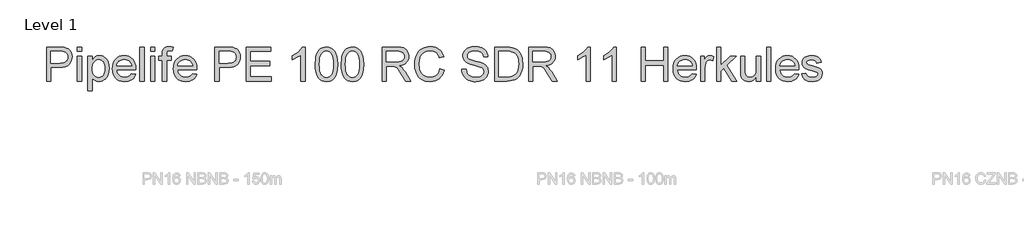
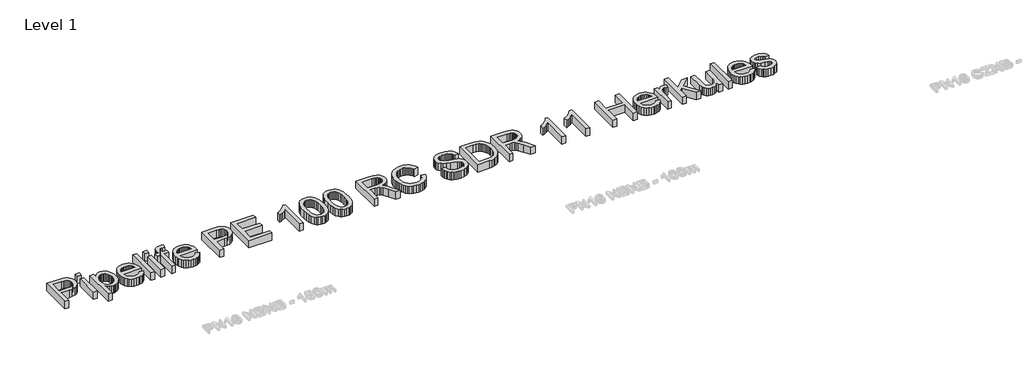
# One storey, part 15 of 17: 1 proxy.
"""IFC4 building model written with IfcOpenShell, lengths in millimetres."""

from ifc_helpers import new_model, si_unit, origin, origin_with_axes, place, context, project, spatial, polyline, outline, extrude, element, save

model = new_model("IFC4")

# Units and contexts
model_context = context("Model", 3, world=origin())
ifc_project = project(units=[si_unit("LENGTHUNIT", "METRE", prefix="MILLI")], contexts=[model_context])

# Site, building, storey
site = spatial("IfcSite", under=ifc_project)
building = spatial("IfcBuilding", under=site)
storey = spatial("IfcBuildingStorey", under=building, Name="Level 1", Elevation=0.0)

# Proxy
placement = place(None, origin())
element("IfcBuildingElementProxy", 1, Name="600mm Arial", ObjectType="600mm Arial", at=placement, inside=storey, context=model_context, shape_type="SweptSolid", body=[
    extrude(outline(polyline([(-16966.7426717, 3990.4626098), (-16966.7426717, 4593.2004707), (-16743.3647242, 4593.2004707), (-16691.3462101, 4591.7657309), (-16653.3072118, 4587.4615116), (-16613.152892, 4576.7377514), (-16580.0986947, 4559.2817508), (-16553.4824324, 4534.3025633), (-16532.6419174, 4501.0092427), (-16519.1774363, 4461.7378398), (-16514.689276, 4418.824405), (-16517.7197039, 4381.8246734), (-16526.8109877, 4347.7863917), (-16541.9631274, 4316.7095602), (-16563.176123, 4288.5941787), (-16592.2985814, 4265.2888543), (-16631.1791098, 4248.642194), (-16679.8177081, 4238.6541979), (-16738.2143763, 4235.3248658), (-16891.4004391, 4235.3248658), (-16891.4004391, 3990.4626098), (-16966.7426717, 3990.4626098)]), holes=[polyline([(-16891.4004391, 4310.6670984), (-16733.7997923, 4310.6670984), (-16697.5634158, 4312.3961438), (-16666.992422, 4317.5832799), (-16642.0868109, 4326.2285068), (-16622.8465826, 4338.3318245), (-16608.4899877, 4353.5713361), (-16598.2352771, 4371.625145), (-16592.0824507, 4392.4932512), (-16590.0315086, 4416.1756547), (-16594.8691569, 4450.0207982), (-16609.3821016, 4478.568441), (-16631.767721, 4500.0527496), (-16660.2233933, 4512.7078902), (-16689.2860709, 4516.5706511), (-16735.5656259, 4517.8582381), (-16891.4004391, 4517.8582381), (-16891.4004391, 4310.6670984)])]), origin_with_axes(), (0.0, 0.0, 1.0), 150.0),
    extrude(outline(polyline([(-16420.5114852, 3990.4626098), (-16420.5114852, 4433.0982264), (-16345.1692526, 4433.0982264), (-16345.1692526, 3990.4626098), (-16420.5114852, 3990.4626098)])), origin_with_axes(), (0.0, 0.0, 1.0), 150.0),
    extrude(outline(polyline([(-16420.5114852, 4517.8582381), (-16420.5114852, 4593.2004707), (-16345.1692526, 4593.2004707), (-16345.1692526, 4517.8582381), (-16420.5114852, 4517.8582381)])), origin_with_axes(), (0.0, 0.0, 1.0), 150.0),
    extrude(outline(polyline([(-16232.1559037, 3820.9425865), (-16232.1559037, 4433.0982264), (-16156.8136711, 4433.0982264), (-16156.8136711, 4359.2275218), (-16132.2391538, 4395.6662334), (-16104.7215806, 4421.6938846), (-16072.6422706, 4437.3104753), (-16034.3825431, 4442.5160055), (-16008.1065716, 4440.6949896), (-15983.4308868, 4435.231942), (-15960.3554886, 4426.1268626), (-15938.8803772, 4413.3797515), (-15919.4746019, 4397.3217024), (-15902.6072124, 4378.2838091), (-15888.2782087, 4356.2660717), (-15876.4875908, 4331.2684902), (-15860.7054532, 4275.7550971), (-15855.4447407, 4215.1649325), (-15861.3860349, 4150.730401), (-15868.8126526, 4121.0653166), (-15879.2099175, 4093.1016865), (-15892.4352753, 4067.570676), (-15908.3461716, 4045.2034507), (-15926.9426064, 4026.0000106), (-15948.2245798, 4009.9603556), (-15971.1482267, 3997.3098135), (-15994.6696817, 3988.273712), (-16018.788945, 3982.8520511), (-16043.5060166, 3981.0448308), (-16078.1421064, 3985.882479), (-16109.0625881, 4000.3954237), (-16135.5316977, 4022.3027965), (-16156.8136711, 4049.3237291), (-16156.8136711, 3820.9425865), (-16232.1559037, 3820.9425865)]), holes=[polyline([(-16156.8136711, 4208.248751), (-16154.7765246, 4171.9387981), (-16148.6650849, 4140.7056167), (-16138.4793522, 4114.5492068), (-16124.2193263, 4093.4695685), (-16107.0530327, 4077.2459725), (-16088.1484967, 4065.6576896), (-16067.5057182, 4058.7047199), (-16045.1246974, 4056.3870634), (-16022.4217797, 4058.7874934), (-16001.4019222, 4065.9887834), (-15982.0651249, 4077.9909335), (-15964.4113876, 4094.7939437), (-15949.7007063, 4116.6369371), (-15939.1930769, 4143.7590372), (-15932.8884992, 4176.1602439), (-15930.7869733, 4213.8405573), (-15932.8379154, 4249.8378105), (-15938.9907418, 4281.0158096), (-15949.2454524, 4307.3745546), (-15963.6020472, 4328.9140454), (-15980.8097276, 4345.6526762), (-15999.6176946, 4357.608841), (-16020.0259482, 4364.7825399), (-16042.0344886, 4367.1737729), (-16063.9740511, 4364.6307886), (-16084.6168295, 4357.0018357), (-16103.962824, 4344.2869143), (-16122.0120344, 4326.4860242), (-16137.2377504, 4303.8382889), (-16148.1132619, 4276.5828316), (-16154.6385688, 4244.7196523), (-16156.8136711, 4208.248751)])]), origin_with_axes(), (0.0, 0.0, 1.0), 150.0),
    extrude(outline(polyline([(-15460.7809362, 4122.3115169), (-15386.9102316, 4112.8937378), (-15398.2363985, 4083.3068284), (-15413.5264939, 4057.233192), (-15432.7805179, 4034.6728286), (-15455.9984703, 4015.6257383), (-15482.9412279, 4000.4965913), (-15513.3696674, 3989.6900576), (-15547.2837889, 3983.2061375), (-15584.6835922, 3981.0448308), (-15631.4321967, 3984.7742345), (-15673.0856356, 3995.9624457), (-15709.6439089, 4014.6094643), (-15741.1070165, 4040.7152904), (-15766.4081008, 4073.553357), (-15784.4803038, 4112.3970971), (-15795.3236256, 4157.2465109), (-15798.9380662, 4208.1015982), (-15795.2868374, 4260.6811323), (-15784.333151, 4307.0250667), (-15766.077007, 4347.1334012), (-15740.5184054, 4381.0061359), (-15709.1380712, 4407.9167039), (-15673.4167294, 4427.1385381), (-15633.3543802, 4438.6716387), (-15588.9510233, 4442.5160055), (-15545.9778078, 4438.6808357), (-15507.1156735, 4427.1753263), (-15472.3646205, 4407.9994773), (-15441.7246489, 4381.1532887), (-15416.7132717, 4347.3541304), (-15398.8480023, 4307.3193723), (-15388.1288407, 4261.0490143), (-15384.5557868, 4208.5430566), (-15384.9972452, 4188.2359704), (-15723.5958336, 4188.2359704), (-15719.2318334, 4158.1708144), (-15710.5544168, 4131.8396606), (-15697.5635839, 4109.242509), (-15680.2593345, 4090.3793597), (-15659.598162, 4075.5077301), (-15636.5365594, 4064.8851375), (-15611.0745268, 4058.5115819), (-15583.2120642, 4056.3870634), (-15543.1129267, 4060.3234007), (-15509.3413596, 4072.1324128), (-15481.8973627, 4092.5498635), (-15460.7809362, 4122.3115169)]), holes=[polyline([(-15723.5958336, 4263.5782031), (-15459.8980194, 4263.5782031), (-15470.0883507, 4303.3830349), (-15478.8531392, 4319.0364138), (-15490.064343, 4331.8571014), (-15510.6105525, 4347.3081452), (-15533.9894533, 4358.344605), (-15560.2010454, 4364.9664809), (-15589.2453289, 4367.1737729), (-15615.7374311, 4365.4125378), (-15640.0314384, 4360.1288327), (-15662.1273507, 4351.3226574), (-15682.0251681, 4338.9940121), (-15698.7224122, 4323.7131137), (-15711.2166044, 4306.0501794), (-15719.5077449, 4286.0052092), (-15723.5958336, 4263.5782031)])]), origin_with_axes(), (0.0, 0.0, 1.0), 150.0),
    extrude(outline(polyline([(-15309.2135542, 3990.4626098), (-15309.2135542, 4593.2004707), (-15233.8713216, 4593.2004707), (-15233.8713216, 3990.4626098), (-15309.2135542, 3990.4626098)])), origin_with_axes(), (0.0, 0.0, 1.0), 150.0),
    extrude(outline(polyline([(-15120.8579727, 4517.8582381), (-15120.8579727, 4593.2004707), (-15045.5157401, 4593.2004707), (-15045.5157401, 4517.8582381), (-15120.8579727, 4517.8582381)])), origin_with_axes(), (0.0, 0.0, 1.0), 150.0),
    extrude(outline(polyline([(-15120.8579727, 3990.4626098), (-15120.8579727, 4433.0982264), (-15045.5157401, 4433.0982264), (-15045.5157401, 3990.4626098), (-15120.8579727, 3990.4626098)])), origin_with_axes(), (0.0, 0.0, 1.0), 150.0),
    extrude(outline(polyline([(-14913.666833, 3990.4626098), (-14913.666833, 4357.7559938), (-14979.5912865, 4357.7559938), (-14979.5912865, 4433.0982264), (-14913.666833, 4433.0982264), (-14913.666833, 4477.6855242), (-14911.6802702, 4514.5840884), (-14905.7205819, 4540.519769), (-14890.5638437, 4565.5725329), (-14867.1665488, 4585.4013724), (-14834.4250512, 4598.3140305), (-14791.235705, 4602.6182498), (-14758.5309956, 4600.5581106), (-14722.5153483, 4594.3776931), (-14733.5518082, 4523.74435), (-14776.9618836, 4527.2760172), (-14805.6014969, 4524.1490202), (-14824.418661, 4514.7680294), (-14834.8481155, 4496.8521762), (-14838.3246004, 4468.1205924), (-14838.3246004, 4433.0982264), (-14753.5645887, 4433.0982264), (-14753.5645887, 4357.7559938), (-14838.3246004, 4357.7559938), (-14838.3246004, 3990.4626098), (-14913.666833, 3990.4626098)])), origin_with_axes(), (0.0, 0.0, 1.0), 150.0),
    extrude(outline(polyline([(-14377.7363424, 4122.3115169), (-14303.8656378, 4112.8937378), (-14315.1918047, 4083.3068284), (-14330.4819001, 4057.233192), (-14349.7359241, 4034.6728286), (-14372.9538765, 4015.6257383), (-14399.8966341, 4000.4965913), (-14430.3250736, 3989.6900576), (-14464.2391951, 3983.2061375), (-14501.6389984, 3981.0448308), (-14548.3876029, 3984.7742345), (-14590.0410418, 3995.9624457), (-14626.5993151, 4014.6094643), (-14658.0624227, 4040.7152904), (-14683.363507, 4073.553357), (-14701.43571, 4112.3970971), (-14712.2790318, 4157.2465109), (-14715.8934724, 4208.1015982), (-14712.2422436, 4260.6811323), (-14701.2885572, 4307.0250667), (-14683.0324132, 4347.1334012), (-14657.4738116, 4381.0061359), (-14626.0934774, 4407.9167039), (-14590.3721356, 4427.1385381), (-14550.3097864, 4438.6716387), (-14505.9064295, 4442.5160055), (-14462.933214, 4438.6808357), (-14424.0710797, 4427.1753263), (-14389.3200267, 4407.9994773), (-14358.6800551, 4381.1532887), (-14333.6686779, 4347.3541304), (-14315.8034085, 4307.3193723), (-14305.0842469, 4261.0490143), (-14301.511193, 4208.5430566), (-14301.9526514, 4188.2359704), (-14640.5512398, 4188.2359704), (-14636.1872396, 4158.1708144), (-14627.509823, 4131.8396606), (-14614.5189901, 4109.242509), (-14597.2147407, 4090.3793597), (-14576.5535682, 4075.5077301), (-14553.4919656, 4064.8851375), (-14528.029933, 4058.5115819), (-14500.1674704, 4056.3870634), (-14460.0683329, 4060.3234007), (-14426.2967658, 4072.1324128), (-14398.8527689, 4092.5498635), (-14377.7363424, 4122.3115169)]), holes=[polyline([(-14640.5512398, 4263.5782031), (-14376.8534256, 4263.5782031), (-14387.0437569, 4303.3830349), (-14395.8085454, 4319.0364138), (-14407.0197492, 4331.8571014), (-14427.5659587, 4347.3081452), (-14450.9448595, 4358.344605), (-14477.1564516, 4364.9664809), (-14506.2007351, 4367.1737729), (-14532.6928373, 4365.4125378), (-14556.9868446, 4360.1288327), (-14579.0827569, 4351.3226574), (-14598.9805743, 4338.9940121), (-14615.6778184, 4323.7131137), (-14628.1720106, 4306.0501794), (-14636.4631511, 4286.0052092), (-14640.5512398, 4263.5782031)])]), origin_with_axes(), (0.0, 0.0, 1.0), 150.0),
    extrude(outline(polyline([(-13981.3067044, 3990.4626098), (-13981.3067044, 4593.2004707), (-13757.928757, 4593.2004707), (-13705.9102428, 4591.7657309), (-13667.8712445, 4587.4615116), (-13627.7169248, 4576.7377514), (-13594.6627275, 4559.2817508), (-13568.0464651, 4534.3025633), (-13547.2059501, 4501.0092427), (-13533.7414691, 4461.7378398), (-13529.2533087, 4418.824405), (-13532.2837367, 4381.8246734), (-13541.3750205, 4347.7863917), (-13556.5271602, 4316.7095602), (-13577.7401557, 4288.5941787), (-13606.8626142, 4265.2888543), (-13645.7431425, 4248.642194), (-13694.3817408, 4238.6541979), (-13752.778409, 4235.3248658), (-13905.9644718, 4235.3248658), (-13905.9644718, 3990.4626098), (-13981.3067044, 3990.4626098)]), holes=[polyline([(-13905.9644718, 4310.6670984), (-13748.3638251, 4310.6670984), (-13712.1274486, 4312.3961438), (-13681.5564548, 4317.5832799), (-13656.6508437, 4326.2285068), (-13637.4106153, 4338.3318245), (-13623.0540205, 4353.5713361), (-13612.7993099, 4371.625145), (-13606.6464835, 4392.4932512), (-13604.5955414, 4416.1756547), (-13609.4331896, 4450.0207982), (-13623.9461343, 4478.568441), (-13646.3317537, 4500.0527496), (-13674.787426, 4512.7078902), (-13703.8501037, 4516.5706511), (-13750.1296587, 4517.8582381), (-13905.9644718, 4517.8582381), (-13905.9644718, 4310.6670984)])]), origin_with_axes(), (0.0, 0.0, 1.0), 150.0),
    extrude(outline(polyline([(-13425.6577389, 3990.4626098), (-13425.6577389, 4593.2004707), (-12992.4399014, 4593.2004707), (-12992.4399014, 4517.8582381), (-13350.3155063, 4517.8582381), (-13350.3155063, 4338.9204357), (-13011.2754595, 4338.9204357), (-13011.2754595, 4263.5782031), (-13350.3155063, 4263.5782031), (-13350.3155063, 4065.8048424), (-12983.0221223, 4065.8048424), (-12983.0221223, 3990.4626098), (-13425.6577389, 3990.4626098)])), origin_with_axes(), (0.0, 0.0, 1.0), 150.0),
    extrude(outline(polyline([(-12380.2842614, 3990.4626098), (-12455.626494, 3990.4626098), (-12455.626494, 4460.1743413), (-12487.0804046, 4434.7353013), (-12526.9956011, 4409.3330495), (-12568.8973603, 4387.1313711), (-12606.3109592, 4371.2940512), (-12606.3109592, 4442.5160055), (-12547.1371403, 4474.7056801), (-12495.8727843, 4513.0021958), (-12455.4609471, 4553.7267326), (-12428.8446848, 4593.2004707), (-12380.2842614, 4593.2004707), (-12380.2842614, 3990.4626098)])), origin_with_axes(), (0.0, 0.0, 1.0), 150.0),
    extrude(outline(polyline([(-12201.346459, 4286.9754979), (-12195.8098349, 4383.4525512), (-12188.8890549, 4424.3656276), (-12179.1999628, 4460.3950705), (-12166.7839455, 4491.8351855), (-12151.6823896, 4518.9802782), (-12133.8952951, 4541.8303486), (-12113.4226621, 4560.3853968), (-12090.1955126, 4574.7419916), (-12064.1448689, 4584.9967022), (-12035.2707308, 4591.1495286), (-12003.5730984, 4593.2004707), (-11957.1463906, 4588.3444284), (-11915.5757251, 4573.7763014), (-11880.8108766, 4550.0663068), (-11854.8016195, 4517.7846617), (-11835.156721, 4477.2072777), (-11819.484948, 4428.6100661), (-11809.2210403, 4366.8978614), (-11805.7997377, 4286.9754979), (-11811.2811795, 4191.0502677), (-11818.1329816, 4150.2751471), (-11827.7255047, 4114.2916894), (-11840.044953, 4082.8377788), (-11855.077531, 4055.6512994), (-11872.8232387, 4032.7322511), (-11893.2820762, 4014.0806339), (-11916.5368168, 3999.62747), (-11942.670234, 3989.3037815), (-11971.6823279, 3983.1095685), (-12003.5730984, 3981.0448308), (-12045.0701874, 3984.6316802), (-12081.8583869, 3995.3922286), (-12113.9376969, 4013.3264758), (-12141.3081173, 4038.434422), (-12167.5748918, 4083.8218632), (-12186.3368736, 4140.3745229), (-12197.5940626, 4208.0924011), (-12201.346459, 4286.9754979)]), holes=[polyline([(-12126.0042263, 4287.1226507), (-12123.7969344, 4221.62586), (-12117.1750585, 4168.609466), (-12106.1385986, 4128.0734687), (-12090.6875548, 4100.017868), (-12071.9991495, 4080.929391), (-12051.2506049, 4067.2947645), (-12028.4419212, 4059.1139887), (-12003.5730984, 4056.3870634), (-11978.7042755, 4059.1231857), (-11955.8955918, 4067.3315527), (-11935.1470472, 4081.0121644), (-11916.4586419, 4100.1650208), (-11901.0075981, 4128.2666067), (-11889.9711382, 4168.793407), (-11883.3492623, 4221.7454217), (-11881.1419704, 4287.1226507), (-11883.2756859, 4350.8857976), (-11889.6768326, 4402.968691), (-11900.3454105, 4443.3713311), (-11915.2814195, 4472.0937179), (-11933.6571252, 4492.1156955), (-11954.644793, 4506.4171081), (-11978.244423, 4514.9979556), (-12004.4560151, 4517.8582381), (-12029.1960793, 4515.3382465), (-12051.6184869, 4507.7782714), (-12071.723238, 4495.1783131), (-12089.5103324, 4477.5383714), (-12105.476411, 4446.2684019), (-12116.8807529, 4404.1091252), (-12123.723358, 4351.0605415), (-12126.0042263, 4287.1226507)])]), origin_with_axes(), (0.0, 0.0, 1.0), 150.0),
    extrude(outline(polyline([(-11739.8752842, 4286.9754979), (-11734.3386602, 4383.4525512), (-11727.4178801, 4424.3656276), (-11717.7287881, 4460.3950705), (-11705.3127708, 4491.8351855), (-11690.2112149, 4518.9802782), (-11672.4241204, 4541.8303486), (-11651.9514874, 4560.3853968), (-11628.7243379, 4574.7419916), (-11602.6736941, 4584.9967022), (-11573.799556, 4591.1495286), (-11542.1019236, 4593.2004707), (-11495.6752158, 4588.3444284), (-11454.1045504, 4573.7763014), (-11419.3397018, 4550.0663068), (-11393.3304448, 4517.7846617), (-11373.6855462, 4477.2072777), (-11358.0137732, 4428.6100661), (-11347.7498655, 4366.8978614), (-11344.328563, 4286.9754979), (-11349.8100047, 4191.0502677), (-11356.6618069, 4150.2751471), (-11366.2543299, 4114.2916894), (-11378.5737782, 4082.8377788), (-11393.6063562, 4055.6512994), (-11411.352064, 4032.7322511), (-11431.8109014, 4014.0806339), (-11455.0656421, 3999.62747), (-11481.1990593, 3989.3037815), (-11510.2111531, 3983.1095685), (-11542.1019236, 3981.0448308), (-11583.5990127, 3984.6316802), (-11620.3872122, 3995.3922286), (-11652.4665222, 4013.3264758), (-11679.8369426, 4038.434422), (-11706.1037171, 4083.8218632), (-11724.8656988, 4140.3745229), (-11736.1228879, 4208.0924011), (-11739.8752842, 4286.9754979)]), holes=[polyline([(-11664.5330516, 4287.1226507), (-11662.3257596, 4221.62586), (-11655.7038837, 4168.609466), (-11644.6674239, 4128.0734687), (-11629.2163801, 4100.017868), (-11610.5279747, 4080.929391), (-11589.7794302, 4067.2947645), (-11566.9707465, 4059.1139887), (-11542.1019236, 4056.3870634), (-11517.2331007, 4059.1231857), (-11494.424417, 4067.3315527), (-11473.6758725, 4081.0121644), (-11454.9874671, 4100.1650208), (-11439.5364233, 4128.2666067), (-11428.4999635, 4168.793407), (-11421.8780876, 4221.7454217), (-11419.6707956, 4287.1226507), (-11421.8045112, 4350.8857976), (-11428.2056579, 4402.968691), (-11438.8742358, 4443.3713311), (-11453.8102448, 4472.0937179), (-11472.1859504, 4492.1156955), (-11493.1736182, 4506.4171081), (-11516.7732482, 4514.9979556), (-11542.9848404, 4517.8582381), (-11567.7249046, 4515.3382465), (-11590.1473122, 4507.7782714), (-11610.2520632, 4495.1783131), (-11628.0391577, 4477.5383714), (-11644.0052363, 4446.2684019), (-11655.4095781, 4404.1091252), (-11662.2521832, 4351.0605415), (-11664.5330516, 4287.1226507)])]), origin_with_axes(), (0.0, 0.0, 1.0), 150.0),
    extrude(outline(polyline([(-11014.7062953, 3990.4626098), (-11014.7062953, 4593.2004707), (-10754.9816067, 4593.2004707), (-10685.1759981, 4589.1353747), (-10634.3898887, 4576.9400865), (-10614.7909754, 4567.246396), (-10597.2705954, 4554.4257084), (-10581.8287486, 4538.4780239), (-10568.4654352, 4519.4033425), (-10557.6818942, 4498.2271351), (-10549.9793649, 4475.974873), (-10545.3578473, 4452.6465559), (-10543.8173415, 4428.2421841), (-10546.3695228, 4397.2849142), (-10554.0260669, 4368.8660301), (-10566.7869736, 4342.9855317), (-10584.652243, 4319.6434191), (-10607.8518013, 4299.5846533), (-10636.6155748, 4283.5541954), (-10670.9435634, 4271.5520453), (-10710.8357673, 4263.5782031), (-10686.0037326, 4247.3546071), (-10668.0143031, 4231.3517403), (-10637.1490037, 4194.7474818), (-10606.9458919, 4153.8022157), (-10506.4405308, 3990.4626098), (-10593.9964456, 3990.4626098), (-10672.428887, 4115.3953354), (-10729.0827143, 4198.0952079), (-10750.1439585, 4222.2098727), (-10768.8875461, 4237.1642758), (-10804.7192525, 4251.5116736), (-10848.4236335, 4254.160424), (-10939.3640627, 4254.160424), (-10939.3640627, 3990.4626098), (-11014.7062953, 3990.4626098)]), holes=[polyline([(-10939.3640627, 4329.5026566), (-10770.7269561, 4329.5026566), (-10722.2952914, 4332.1698011), (-10684.7161456, 4340.1712344), (-10656.4260202, 4354.0403857), (-10635.8614167, 4374.3106836), (-10623.3350347, 4398.8300186), (-10619.1595741, 4425.4462809), (-10621.1507354, 4444.7141004), (-10627.1242193, 4462.1976922), (-10637.0800258, 4477.8970564), (-10651.0181549, 4491.8121929), (-10669.2605033, 4503.2073377), (-10692.1289678, 4511.3467268), (-10719.6235485, 4516.2303603), (-10751.7442452, 4517.8582381), (-10939.3640627, 4517.8582381), (-10939.3640627, 4329.5026566)])]), origin_with_axes(), (0.0, 0.0, 1.0), 150.0),
    extrude(outline(polyline([(-9988.168376, 4204.7170838), (-9912.8261434, 4185.2929145), (-9927.7345612, 4138.4385439), (-9947.5909919, 4097.4978763), (-9972.3954354, 4062.4709119), (-10002.1478918, 4033.3576505), (-10036.1769763, 4010.4707918), (-10073.8113045, 3994.1230357), (-10115.0508761, 3984.314382), (-10159.8956913, 3981.0448308), (-10205.839554, 3983.5188372), (-10247.2860593, 3990.9408564), (-10284.2352072, 4003.3108885), (-10316.6869977, 4020.6289334), (-10345.0874877, 4042.6374738), (-10369.8827342, 4069.0789922), (-10391.0727371, 4099.9534886), (-10408.6574965, 4135.2609631), (-10422.4668669, 4173.4747054), (-10432.3307029, 4213.0680051), (-10438.2490044, 4254.0408623), (-10440.2217716, 4296.393277), (-10437.9914871, 4341.8359005), (-10431.3006333, 4384.2802857), (-10420.1492103, 4423.7264326), (-10404.5372181, 4460.1743413), (-10384.8141446, 4493.0216049), (-10361.3294778, 4521.6658168), (-10334.0832175, 4546.1069768), (-10303.0753638, 4566.3450851), (-10269.358979, 4582.2145946), (-10233.9871252, 4593.5499586), (-10196.9598023, 4600.351177), (-10158.2770105, 4602.6182498), (-10115.1842333, 4599.6843909), (-10075.6691085, 4590.8828142), (-10039.7316361, 4576.2135196), (-10007.3718161, 4555.6765072), (-9979.1230774, 4529.814403), (-9955.5188489, 4499.1698328), (-9936.5591306, 4463.7427966), (-9922.2439224, 4423.5332946), (-9997.5861551, 4405.5806532), (-10009.4503494, 4435.2089494), (-10023.7057767, 4460.5238292), (-10040.352437, 4481.5252926), (-10059.3903302, 4498.2133396), (-10080.9298211, 4510.928261), (-10105.081274, 4520.0103478), (-10131.8446892, 4525.4595998), (-10161.2200665, 4527.2760172), (-10195.0192248, 4525.2618633), (-10225.9305095, 4519.2194015), (-10253.9539204, 4509.1486319), (-10279.0894578, 4495.0495544), (-10301.0198232, 4477.5567655), (-10319.4277185, 4457.3048617), (-10334.3131438, 4434.2938429), (-10345.6760989, 4408.5237092), (-10360.078679, 4353.3781981), (-10364.879539, 4296.5404298), (-10359.1957622, 4226.9371563), (-10352.0910412, 4195.6671867), (-10342.1444317, 4166.7516619), (-10329.1949855, 4140.7653975), (-10313.0817541, 4118.2832091), (-10293.8047376, 4099.3050966), (-10271.3639359, 4083.8310602), (-10246.8491994, 4071.8243116), (-10221.3503786, 4063.2480626), (-10194.8674735, 4058.1023132), (-10167.400484, 4056.3870634), (-10134.6451909, 4058.723114), (-10104.5110569, 4065.731266), (-10076.9980822, 4077.4115194), (-10052.1062667, 4093.7638741), (-10030.4242216, 4114.7147537), (-10012.5405582, 4140.1905819), (-9998.4552763, 4170.1913586), (-9988.168376, 4204.7170838)])), origin_with_axes(), (0.0, 0.0, 1.0), 150.0),
    extrude(outline(polyline([(-9602.0394338, 4197.6537495), (-9526.6972012, 4197.6537495), (-9518.0519743, 4155.8439608), (-9502.4169895, 4122.2379405), (-9478.0264133, 4095.5664959), (-9443.1144119, 4074.5604339), (-9400.4401005, 4060.930406), (-9352.7625939, 4056.3870634), (-9310.7872583, 4059.82676), (-9274.0358469, 4070.14585), (-9244.2557994, 4086.4798106), (-9223.1945552, 4107.9641191), (-9210.6681733, 4132.6306069), (-9206.4927126, 4158.5111052), (-9209.6197096, 4183.729416), (-9219.0007005, 4205.5264242), (-9238.0569878, 4224.1228591), (-9270.2098742, 4239.7394498), (-9379.9122851, 4268.5078218), (-9451.9251857, 4287.545715), (-9498.0024056, 4305.6639033), (-9535.507975, 4331.0109728), (-9562.0874492, 4361.7291194), (-9577.9247691, 4397.1561555), (-9583.2038757, 4436.6298936), (-9581.5713993, 4459.0660968), (-9576.6739703, 4480.7573389), (-9568.5115885, 4501.70362), (-9557.084254, 4521.9049401), (-9542.5207255, 4540.5381631), (-9524.9497617, 4556.7801532), (-9504.3713626, 4570.6309103), (-9480.7855282, 4582.0904345), (-9427.7737327, 4597.486296), (-9369.0965545, 4602.6182498), (-9305.5265457, 4597.2471727), (-9249.9027881, 4581.1339413), (-9225.5673941, 4569.1317912), (-9204.2118443, 4554.6096494), (-9185.8361386, 4537.567516), (-9170.4402771, 4518.0053909), (-9158.1438214, 4496.4934912), (-9149.0663332, 4473.6020341), (-9143.2078124, 4449.3310195), (-9140.5682591, 4423.6804474), (-9215.9104917, 4423.6804474), (-9220.950475, 4447.7215357), (-9229.7428547, 4468.6356272), (-9242.2876308, 4486.4227216), (-9258.5848031, 4501.0828191), (-9278.9378745, 4512.5423433), (-9303.6503475, 4520.7277177), (-9332.7222222, 4525.6389423), (-9366.1534985, 4527.2760172), (-9400.6516326, 4525.6573364), (-9430.1281775, 4520.8012941), (-9454.5831331, 4512.7078902), (-9474.0164995, 4501.3771247), (-9488.8237498, 4487.7562939), (-9499.4003572, 4472.7926937), (-9505.7463216, 4456.4863243), (-9507.8616431, 4438.8371856), (-9506.3625239, 4423.6528562), (-9501.8651666, 4409.8848725), (-9494.3695709, 4397.5332345), (-9483.875737, 4386.5979422), (-9467.3578354, 4376.2420641), (-9441.3485783, 4365.7758213), (-9360.8559978, 4344.512242), (-9277.7882433, 4324.3155205), (-9227.5355627, 4306.6939729), (-9184.5853398, 4279.3603406), (-9167.9800663, 4263.2930945), (-9154.6213513, 4245.6255617), (-9144.3528451, 4226.4497127), (-9137.0181978, 4205.857518), (-9131.15048, 4160.4240916), (-9132.8381387, 4136.8566513), (-9137.9011146, 4113.9789897), (-9146.3394079, 4091.7911069), (-9158.1530185, 4070.2930028), (-9173.1350127, 4050.3170104), (-9191.078457, 4032.6954629), (-9211.9833514, 4017.4283601), (-9235.8496958, 4004.515702), (-9261.9831131, 3994.2471959), (-9289.6892258, 3986.9125486), (-9349.8195379, 3981.0448308), (-9388.3597755, 3982.6267233), (-9423.6350603, 3987.3724011), (-9455.6453924, 3995.281864), (-9484.3907718, 4006.355112), (-9510.0459424, 4020.6105393), (-9532.7856482, 4038.06654), (-9552.6098893, 4058.723114), (-9569.5186655, 4082.5802614), (-9583.1394963, 4108.86543), (-9593.0999014, 4136.8060675), (-9599.3998805, 4166.402174), (-9602.0394338, 4197.6537495)])), origin_with_axes(), (0.0, 0.0, 1.0), 150.0),
    extrude(outline(polyline([(-9018.1371311, 3990.4626098), (-9018.1371311, 4593.2004707), (-8810.2102274, 4593.2004707), (-8748.0749584, 4591.029967), (-8702.641532, 4584.5184556), (-8654.5961435, 4567.7798249), (-8614.0555476, 4541.4026858), (-8591.7159134, 4519.8448009), (-8572.3745175, 4495.4910128), (-8556.0313599, 4468.3413216), (-8542.6864405, 4438.3957272), (-8532.3213653, 4405.9301411), (-8524.9177402, 4371.2204748), (-8518.99484, 4295.0689018), (-8523.0047538, 4230.376853), (-8535.034495, 4173.4471142), (-8553.3550184, 4124.9786614), (-8576.2372785, 4085.6704702), (-8602.5776293, 4054.6396239), (-8631.272425, 4031.0032057), (-8664.2162576, 4013.4736286), (-8703.3037196, 4000.7633057), (-8748.6083873, 3993.0377838), (-8800.2038371, 3990.4626098), (-9018.1371311, 3990.4626098)]), holes=[polyline([(-8942.7948985, 4065.8048424), (-8809.4744634, 4065.8048424), (-8754.3289524, 4068.5271692), (-8712.5007695, 4076.6941495), (-8680.9364943, 4089.8275367), (-8656.5827062, 4107.4490843), (-8630.4079023, 4140.0618232), (-8610.7446096, 4182.2762821), (-8598.4389569, 4234.2764021), (-8594.3370726, 4296.2461242), (-8596.346628, 4339.9872934), (-8602.3752942, 4378.3573855), (-8612.4230712, 4411.3564005), (-8626.489959, 4438.9843384), (-8643.4355234, 4461.8665985), (-8662.1193303, 4480.6285802), (-8682.5413795, 4495.2702836), (-8704.7016712, 4505.7917087), (-8748.0381702, 4514.8416058), (-8811.5346026, 4517.8582381), (-8942.7948985, 4517.8582381), (-8942.7948985, 4065.8048424)])]), origin_with_axes(), (0.0, 0.0, 1.0), 150.0),
    extrude(outline(polyline([(-8415.3992702, 3990.4626098), (-8415.3992702, 4593.2004707), (-8155.6745816, 4593.2004707), (-8085.868973, 4589.1353747), (-8035.0828636, 4576.9400865), (-8015.4839503, 4567.246396), (-7997.9635703, 4554.4257084), (-7982.5217235, 4538.4780239), (-7969.15841, 4519.4033425), (-7958.3748691, 4498.2271351), (-7950.6723398, 4475.974873), (-7946.0508222, 4452.6465559), (-7944.5103164, 4428.2421841), (-7947.0624977, 4397.2849142), (-7954.7190417, 4368.8660301), (-7967.4799484, 4342.9855317), (-7985.3452178, 4319.6434191), (-8008.5447762, 4299.5846533), (-8037.3085497, 4283.5541954), (-8071.6365383, 4271.5520453), (-8111.5287422, 4263.5782031), (-8086.6967075, 4247.3546071), (-8068.7072779, 4231.3517403), (-8037.8419785, 4194.7474818), (-8007.6388667, 4153.8022157), (-7907.1335057, 3990.4626098), (-7994.6894205, 3990.4626098), (-8073.1218619, 4115.3953354), (-8129.7756891, 4198.0952079), (-8150.8369334, 4222.2098727), (-8169.580521, 4237.1642758), (-8205.4122273, 4251.5116736), (-8249.1166084, 4254.160424), (-8340.0570376, 4254.160424), (-8340.0570376, 3990.4626098), (-8415.3992702, 3990.4626098)]), holes=[polyline([(-8340.0570376, 4329.5026566), (-8171.419931, 4329.5026566), (-8122.9882663, 4332.1698011), (-8085.4091205, 4340.1712344), (-8057.1189951, 4354.0403857), (-8036.5543916, 4374.3106836), (-8024.0280096, 4398.8300186), (-8019.852549, 4425.4462809), (-8021.8437103, 4444.7141004), (-8027.8171942, 4462.1976922), (-8037.7730007, 4477.8970564), (-8051.7111298, 4491.8121929), (-8069.9534782, 4503.2073377), (-8092.8219427, 4511.3467268), (-8120.3165233, 4516.2303603), (-8152.43722, 4517.8582381), (-8340.0570376, 4517.8582381), (-8340.0570376, 4329.5026566)])]), origin_with_axes(), (0.0, 0.0, 1.0), 150.0),
    extrude(outline(polyline([(-7322.9368973, 3990.4626098), (-7398.2791299, 3990.4626098), (-7398.2791299, 4460.1743413), (-7429.7330405, 4434.7353013), (-7469.648237, 4409.3330495), (-7511.5499962, 4387.1313711), (-7548.9635952, 4371.2940512), (-7548.9635952, 4442.5160055), (-7489.7897762, 4474.7056801), (-7438.5254202, 4513.0021958), (-7398.113583, 4553.7267326), (-7371.4973207, 4593.2004707), (-7322.9368973, 4593.2004707), (-7322.9368973, 3990.4626098)])), origin_with_axes(), (0.0, 0.0, 1.0), 150.0),
    extrude(outline(polyline([(-6861.4657226, 3990.4626098), (-6936.8079552, 3990.4626098), (-6936.8079552, 4460.1743413), (-6968.2618658, 4434.7353013), (-7008.1770622, 4409.3330495), (-7050.0788215, 4387.1313711), (-7087.4924204, 4371.2940512), (-7087.4924204, 4442.5160055), (-7028.3186015, 4474.7056801), (-6977.0542455, 4513.0021958), (-6936.6424083, 4553.7267326), (-6910.0261459, 4593.2004707), (-6861.4657226, 4593.2004707), (-6861.4657226, 3990.4626098)])), origin_with_axes(), (0.0, 0.0, 1.0), 150.0),
    extrude(outline(polyline([(-6418.830106, 3990.4626098), (-6418.830106, 4593.2004707), (-6343.4878734, 4593.2004707), (-6343.4878734, 4348.3382147), (-6023.2833848, 4348.3382147), (-6023.2833848, 4593.2004707), (-5947.9411521, 4593.2004707), (-5947.9411521, 3990.4626098), (-6023.2833848, 3990.4626098), (-6023.2833848, 4272.9959821), (-6343.4878734, 4272.9959821), (-6343.4878734, 3990.4626098), (-6418.830106, 3990.4626098)])), origin_with_axes(), (0.0, 0.0, 1.0), 150.0),
    extrude(outline(polyline([(-5515.6062314, 4122.3115169), (-5441.7355268, 4112.8937378), (-5453.0616937, 4083.3068284), (-5468.3517891, 4057.233192), (-5487.6058131, 4034.6728286), (-5510.8237655, 4015.6257383), (-5537.7665231, 4000.4965913), (-5568.1949626, 3989.6900576), (-5602.1090841, 3983.2061375), (-5639.5088874, 3981.0448308), (-5686.2574919, 3984.7742345), (-5727.9109308, 3995.9624457), (-5764.4692041, 4014.6094643), (-5795.9323117, 4040.7152904), (-5821.233396, 4073.553357), (-5839.305599, 4112.3970971), (-5850.1489208, 4157.2465109), (-5853.7633614, 4208.1015982), (-5850.1121326, 4260.6811323), (-5839.1584462, 4307.0250667), (-5820.9023022, 4347.1334012), (-5795.3437005, 4381.0061359), (-5763.9633664, 4407.9167039), (-5728.2420246, 4427.1385381), (-5688.1796754, 4438.6716387), (-5643.7763185, 4442.5160055), (-5600.803103, 4438.6808357), (-5561.9409687, 4427.1753263), (-5527.1899157, 4407.9994773), (-5496.5499441, 4381.1532887), (-5471.5385669, 4347.3541304), (-5453.6732975, 4307.3193723), (-5442.9541359, 4261.0490143), (-5439.381082, 4208.5430566), (-5439.8225404, 4188.2359704), (-5778.4211288, 4188.2359704), (-5774.0571286, 4158.1708144), (-5765.379712, 4131.8396606), (-5752.3888791, 4109.242509), (-5735.0846297, 4090.3793597), (-5714.4234572, 4075.5077301), (-5691.3618546, 4064.8851375), (-5665.899822, 4058.5115819), (-5638.0373594, 4056.3870634), (-5597.9382219, 4060.3234007), (-5564.1666548, 4072.1324128), (-5536.7226579, 4092.5498635), (-5515.6062314, 4122.3115169)]), holes=[polyline([(-5778.4211288, 4263.5782031), (-5514.7233146, 4263.5782031), (-5524.9136459, 4303.3830349), (-5533.6784344, 4319.0364138), (-5544.8896382, 4331.8571014), (-5565.4358477, 4347.3081452), (-5588.8147485, 4358.344605), (-5615.0263406, 4364.9664809), (-5644.0706241, 4367.1737729), (-5670.5627263, 4365.4125378), (-5694.8567336, 4360.1288327), (-5716.9526459, 4351.3226574), (-5736.8504633, 4338.9940121), (-5753.5477074, 4323.7131137), (-5766.0418996, 4306.0501794), (-5774.3330401, 4286.0052092), (-5778.4211288, 4263.5782031)])]), origin_with_axes(), (0.0, 0.0, 1.0), 150.0),
    extrude(outline(polyline([(-5364.0388494, 3990.4626098), (-5364.0388494, 4433.0982264), (-5298.1143959, 4433.0982264), (-5298.1143959, 4367.6152313), (-5273.7606078, 4405.5806532), (-5251.3198061, 4427.9478785), (-5228.805428, 4438.8739738), (-5204.2309107, 4442.5160055), (-5166.7069472, 4436.70347), (-5128.5943725, 4419.2658634), (-5153.757501, 4351.7227291), (-5180.2450046, 4363.3110119), (-5206.7325083, 4367.1737729), (-5229.2284923, 4363.4581647), (-5249.3332433, 4352.3113403), (-5265.5752334, 4334.5794281), (-5276.4829345, 4311.1085568), (-5285.6431962, 4269.0228566), (-5288.6966168, 4223.1111836), (-5288.6966168, 3990.4626098), (-5364.0388494, 3990.4626098)])), origin_with_axes(), (0.0, 0.0, 1.0), 150.0),
    extrude(outline(polyline([(-5081.5054771, 3990.4626098), (-5081.5054771, 4593.2004707), (-5006.1632445, 4593.2004707), (-5006.1632445, 4269.3171622), (-4837.2318323, 4433.0982264), (-4733.0476513, 4433.0982264), (-4904.0392026, 4267.257023), (-4723.6298722, 3990.4626098), (-4811.6272454, 3990.4626098), (-4958.0442795, 4214.8706269), (-5006.1632445, 4168.2231899), (-5006.1632445, 3990.4626098), (-5081.5054771, 3990.4626098)])), origin_with_axes(), (0.0, 0.0, 1.0), 150.0),
    extrude(outline(polyline([(-4375.1720464, 3990.4626098), (-4375.1720464, 4066.5406064), (-4402.4321022, 4029.1362046), (-4434.1803184, 4002.4187747), (-4470.4166949, 3986.3883167), (-4511.1412318, 3981.0448308), (-4547.8374608, 3984.7972271), (-4581.9953041, 3996.0544162), (-4610.6533115, 4012.9769879), (-4630.850033, 4033.7255325), (-4644.4432727, 4058.9254491), (-4653.2908347, 4089.2021373), (-4657.7054187, 4159.2468692), (-4657.7054187, 4433.0982264), (-4582.363186, 4433.0982264), (-4582.363186, 4194.7106936), (-4581.2227519, 4147.033187), (-4577.8014493, 4117.896933), (-4566.8201718, 4092.273952), (-4548.0030077, 4072.7946004), (-4522.6007559, 4060.4889476), (-4491.8642152, 4056.3870634), (-4459.361841, 4060.5809181), (-4428.9563941, 4073.1624823), (-4403.8852361, 4092.9729278), (-4387.3857286, 4118.8534261), (-4378.2254669, 4154.2988564), (-4375.1720464, 4202.8040974), (-4375.1720464, 4433.0982264), (-4299.8298138, 4433.0982264), (-4299.8298138, 3990.4626098), (-4375.1720464, 3990.4626098)])), origin_with_axes(), (0.0, 0.0, 1.0), 150.0),
    extrude(outline(polyline([(-4196.2342439, 3990.4626098), (-4196.2342439, 4593.2004707), (-4120.8920113, 4593.2004707), (-4120.8920113, 3990.4626098), (-4196.2342439, 3990.4626098)])), origin_with_axes(), (0.0, 0.0, 1.0), 150.0),
    extrude(outline(polyline([(-3697.9748696, 4122.3115169), (-3624.104165, 4112.8937378), (-3635.4303319, 4083.3068284), (-3650.7204274, 4057.233192), (-3669.9744513, 4034.6728286), (-3693.1924037, 4015.6257383), (-3720.1351613, 4000.4965913), (-3750.5636009, 3989.6900576), (-3784.4777223, 3983.2061375), (-3821.8775256, 3981.0448308), (-3868.6261302, 3984.7742345), (-3910.2795691, 3995.9624457), (-3946.8378423, 4014.6094643), (-3978.30095, 4040.7152904), (-4003.6020342, 4073.553357), (-4021.6742372, 4112.3970971), (-4032.517559, 4157.2465109), (-4036.1319996, 4208.1015982), (-4032.4807708, 4260.6811323), (-4021.5270844, 4307.0250667), (-4003.2709404, 4347.1334012), (-3977.7123388, 4381.0061359), (-3946.3320046, 4407.9167039), (-3910.6106629, 4427.1385381), (-3870.5483136, 4438.6716387), (-3826.1449568, 4442.5160055), (-3783.1717412, 4438.6808357), (-3744.3096069, 4427.1753263), (-3709.558554, 4407.9994773), (-3678.9185823, 4381.1532887), (-3653.9072051, 4347.3541304), (-3636.0419358, 4307.3193723), (-3625.3227741, 4261.0490143), (-3621.7497202, 4208.5430566), (-3622.1911786, 4188.2359704), (-3960.789767, 4188.2359704), (-3956.4257668, 4158.1708144), (-3947.7483503, 4131.8396606), (-3934.7575173, 4109.242509), (-3917.453268, 4090.3793597), (-3896.7920954, 4075.5077301), (-3873.7304928, 4064.8851375), (-3848.2684602, 4058.5115819), (-3820.4059976, 4056.3870634), (-3780.3068602, 4060.3234007), (-3746.535293, 4072.1324128), (-3719.0912962, 4092.5498635), (-3697.9748696, 4122.3115169)]), holes=[polyline([(-3960.789767, 4263.5782031), (-3697.0919529, 4263.5782031), (-3707.2822841, 4303.3830349), (-3716.0470727, 4319.0364138), (-3727.2582765, 4331.8571014), (-3747.8044859, 4347.3081452), (-3771.1833867, 4358.344605), (-3797.3949788, 4364.9664809), (-3826.4392624, 4367.1737729), (-3852.9313645, 4365.4125378), (-3877.2253718, 4360.1288327), (-3899.3212841, 4351.3226574), (-3919.2191015, 4338.9940121), (-3935.9163456, 4323.7131137), (-3948.4105379, 4306.0501794), (-3956.7016783, 4286.0052092), (-3960.789767, 4263.5782031)])]), origin_with_axes(), (0.0, 0.0, 1.0), 150.0),
    extrude(outline(polyline([(-3574.6608249, 4122.3115169), (-3499.3185922, 4131.729296), (-3494.7660526, 4114.5492068), (-3487.4360038, 4099.5028332), (-3477.328446, 4086.5901752), (-3464.4433791, 4075.8112327), (-3448.744015, 4067.3131586), (-3430.1935654, 4061.2431057), (-3384.5394098, 4056.3870634), (-3339.4370771, 4060.8384355), (-3321.9075001, 4066.4026507), (-3307.7256492, 4074.1925519), (-3288.9636674, 4093.5431449), (-3284.273172, 4104.3772696), (-3282.7096735, 4115.9839466), (-3284.282369, 4126.1558838), (-3289.0004556, 4135.1873867), (-3307.872802, 4149.8290901), (-3336.089351, 4159.394022), (-3385.4223265, 4171.3133987), (-3454.1794714, 4191.1974205), (-3498.8771339, 4208.1751746), (-3527.5903236, 4226.698033), (-3548.3940504, 4251.217368), (-3561.0307969, 4280.169681), (-3565.2430458, 4311.9914736), (-3561.8585314, 4341.1829099), (-3551.7049884, 4368.1302661), (-3535.7021216, 4391.7666843), (-3514.769636, 4411.0253067), (-3493.9659092, 4423.1470185), (-3466.8714003, 4433.3189556), (-3435.5462484, 4440.216743), (-3402.0505927, 4442.5160055), (-3353.0119228, 4438.8187915), (-3310.3743995, 4427.7271493), (-3276.0877976, 4410.3263309), (-3252.1018915, 4387.7015882), (-3236.2093893, 4358.1790581), (-3226.202999, 4320.0848775), (-3301.5452316, 4310.6670984), (-3311.0549812, 4334.377093), (-3329.8721453, 4352.2377639), (-3358.1806648, 4363.4397706), (-3396.1644808, 4367.1737729), (-3439.4274034, 4363.6053175), (-3468.2693519, 4352.8999515), (-3484.4929478, 4337.4489077), (-3489.9008132, 4319.6434191), (-3487.656733, 4308.0551363), (-3480.9244925, 4297.7176522), (-3469.409786, 4288.4838141), (-3452.8183081, 4281.089386), (-3387.9239241, 4265.049731), (-3277.3385964, 4229.5859067), (-3248.1287659, 4212.6265467), (-3225.9822698, 4189.4131928), (-3212.0211481, 4159.8722686), (-3207.3674409, 4123.9301977), (-3212.8304885, 4086.7741162), (-3229.2196314, 4051.8253266), (-3255.9094701, 4021.8245499), (-3292.2746054, 3999.5125069), (-3336.1997156, 3985.6617498), (-3385.5694793, 3981.0448308), (-3426.1192723, 3983.2705168), (-3461.5371113, 3989.947575), (-3491.8229966, 4001.0760054), (-3516.976928, 4016.6558079), (-3537.5231374, 4036.6134061), (-3553.9858567, 4060.8752237), (-3566.3650859, 4089.4412606), (-3574.6608249, 4122.3115169)])), origin_with_axes(), (0.0, 0.0, 1.0), 150.0),
])

save(model, "model.ifc")
